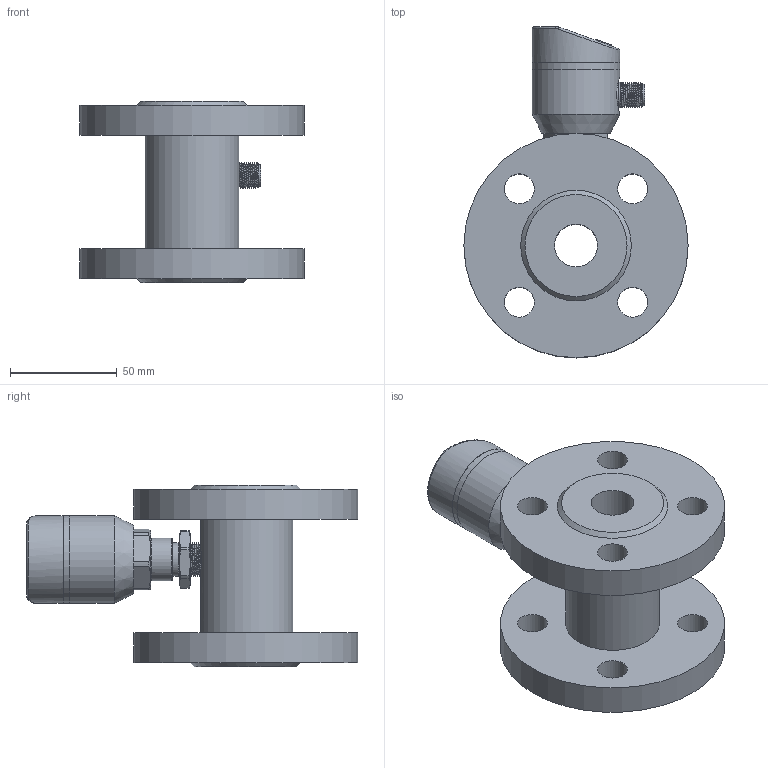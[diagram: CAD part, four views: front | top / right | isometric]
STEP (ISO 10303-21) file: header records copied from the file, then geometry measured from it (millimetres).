
FILE_DESCRIPTION( (''), '2;1');
FILE_NAME( 'QTKA_DN20_flange.step', '2024-01-11T13:35:50+08:00', (''), (''), '', '', '');
FILE_SCHEMA (('AUTOMOTIVE_DESIGN { 1 0 10303 214 3 1 1 1 }'));
Length unit declared in the file: millimetre
Products named in the file (1): QTKA DN20_flange
Bounding box: 105 x 155.3 x 85 mm (x, y, z)
Volume: 320475.8 mm3; surface area: 81138.4 mm2
Topology: 5 solids, 7 shells, 438 faces, 1064 edges, 676 vertices
Faces by surface type: plane 153, cylinder 147, cone 50, bspline 43, torus 39, sphere 6
Full cylindrical faces by diameter (mm): 1 x5, 2.7 x4, 8.4 x1, 9.7 x1, 9.8 x1, 10.1 x1, 11.6 x1, 12 x1, 14 x8, 15.9 x1, 16.5 x1, 20 x2, 23 x3, 26 x4, 26.1 x1, 37 x1, 41 x3, 105 x2
Entity records: 29817 total; most frequent: CARTESIAN_POINT 18692, DIRECTION 1947, ORIENTED_EDGE 1926, EDGE_CURVE 963, AXIS2_PLACEMENT_3D 782, VERTEX_POINT 638, EDGE_LOOP 559, ADVANCED_FACE 436
